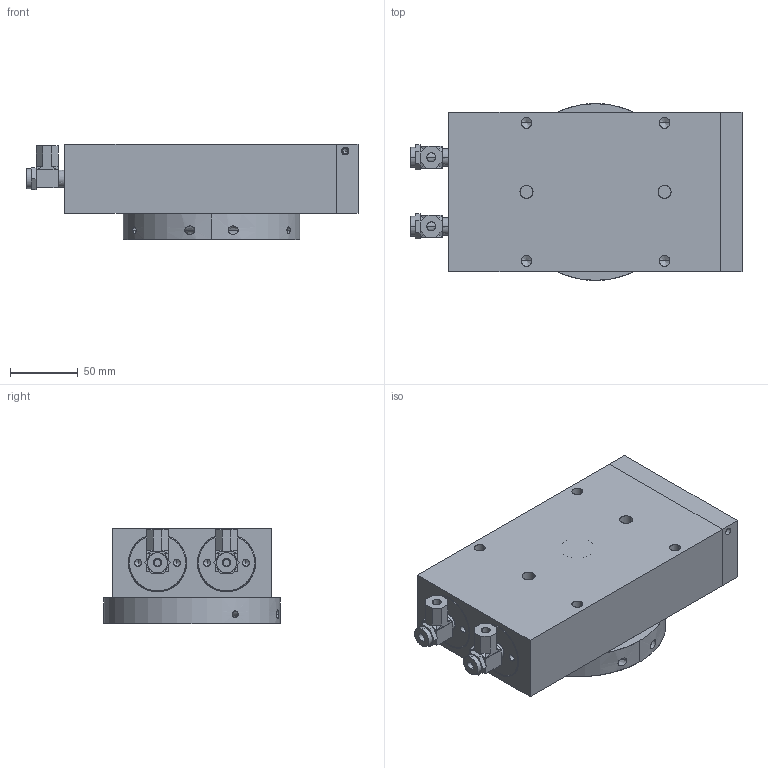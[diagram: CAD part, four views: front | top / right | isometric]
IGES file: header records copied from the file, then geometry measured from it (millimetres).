
Start section: SolidWorks IGES file using analytic representation for surfaces
Global section: file name: C:\Users\jmkuhnes\Pictures\My Transfers\AGR\AGR-5\AGR-5 HOME POSITION in MM.IGS; native system: SolidWorks 2013; preprocessor: SolidWorks 2013; author: jmkuhnes; date: 141105.132204; units: millimetre
Bounding box: 244.38 x 130.18 x 70.26 mm (x, y, z)
Surface area: 235284.3 mm2 (no closed solid volume)
Topology: 0 solids, 0 shells, 509 faces, 10724 edges, 10666 vertices
Faces by surface type: revolution 340, bspline 169
